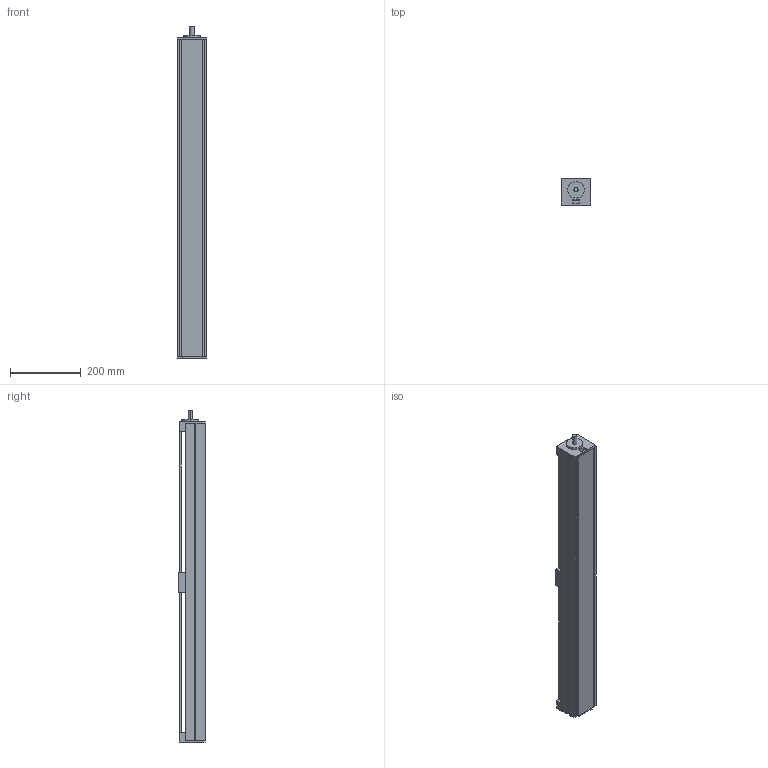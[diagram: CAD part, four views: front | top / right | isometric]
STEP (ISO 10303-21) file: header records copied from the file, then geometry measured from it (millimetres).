
FILE_DESCRIPTION (( 'STEP AP203' ), '1' );
FILE_NAME ('MSX84B-800-LL2010-P7短面板式 .STEP', '2013-11-02T03:08:41', ( '微软用户' ), ( '微软中国' ), 'SwSTEP 2.0', 'SolidWorks 2010', '' );
FILE_SCHEMA (( 'CONFIG_CONTROL_DESIGN' ));
Length unit declared in the file: millimetre
Products named in the file (1): MSX84B-800-LL2010-P7傻醱啣宒 
Bounding box: 84 x 78 x 940 mm (x, y, z)
Volume: 2365386.2 mm3; surface area: 643660.8 mm2
Topology: 1 solids, 1 shells, 158 faces, 449 edges, 286 vertices
Faces by surface type: plane 126, cylinder 24, cone 8
Entity records: 5074 total; most frequent: CARTESIAN_POINT 886, ORIENTED_EDGE 882, DIRECTION 807, EDGE_CURVE 441, VECTOR 393, LINE 393, VERTEX_POINT 286, AXIS2_PLACEMENT_3D 207
